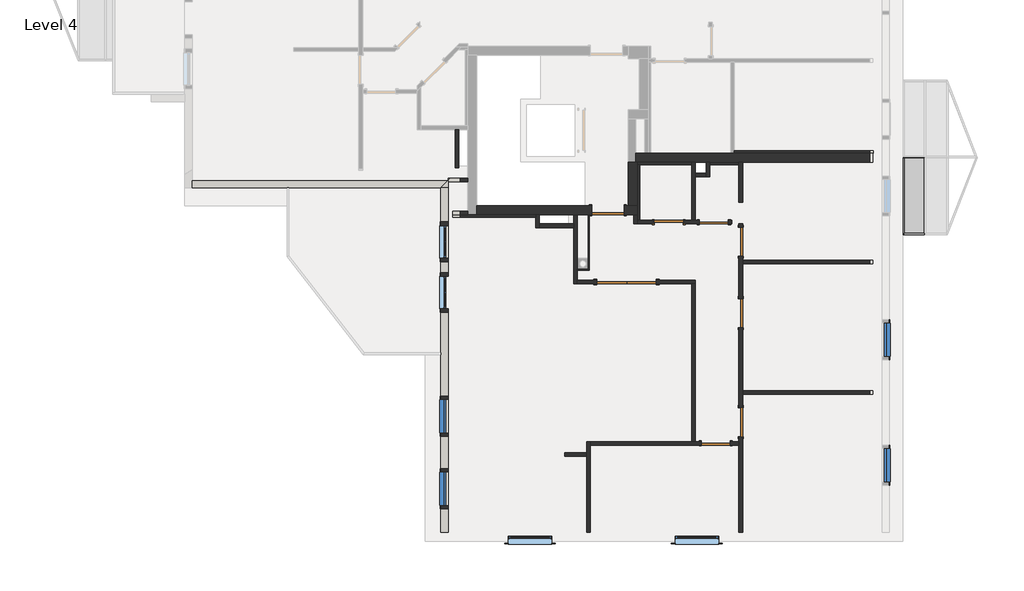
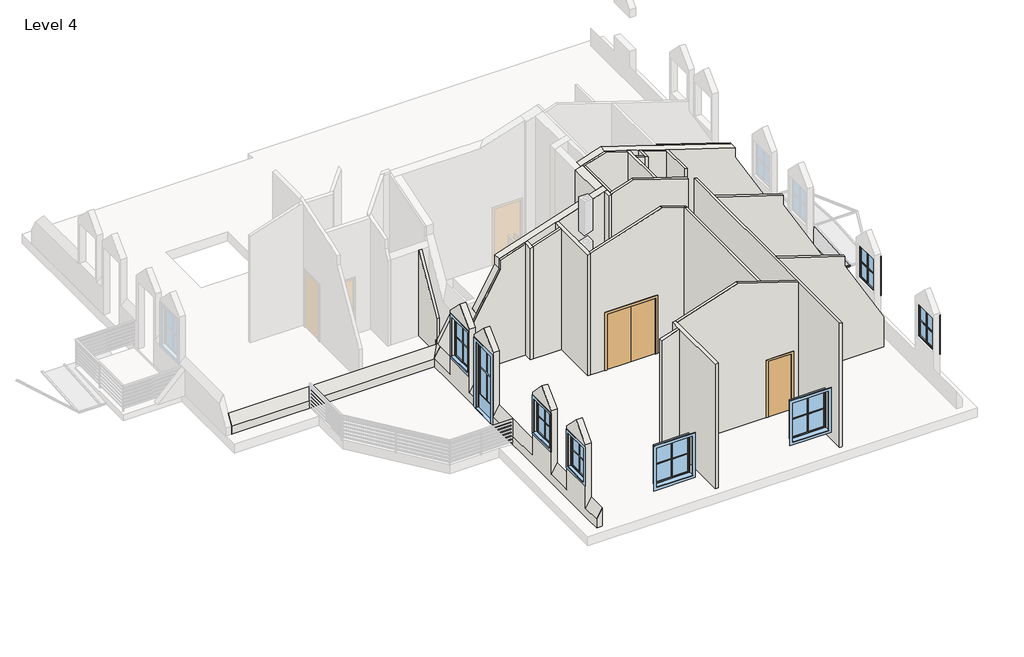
# One storey, part 1 of 4: 32 walls, 8 doors, 8 windows, 2 members, 1 plate.
"""IFC4 building model written with IfcOpenShell, lengths in millimetres."""

from ifc_helpers import new_model, si_unit, frame, origin, place, context, project, spatial, polyline, outline, extrude, faceted_brep, transform, mapped, element, save
from components import m_double_flush_1640_x_2000mm_58610322, standard_door_sd_800x2000_6a16926d, standard_door_sd_800x2000_80f4ff25, standard_door_sd_900x2000_a6683946, rectangular_mullion_40_40_14cc0a15, rectangular_mullion_40_40_b48b72c3, system_panel_system_panel_ddfd2fd1, standard_window_with_mullions_80486b60, standard_window_with_mullions_4ddc0d11, standard_window_with_mullions_4f38f980, window_2_c3f3d78e

model = new_model("IFC4")

# Units and contexts
model_context = context("Model", 3, world=origin())
ifc_project = project(units=[si_unit("LENGTHUNIT", "METRE", prefix="MILLI")], contexts=[model_context])

# Site, building, storey
site = spatial("IfcSite", under=ifc_project)
building = spatial("IfcBuilding", under=site)
storey = spatial("IfcBuildingStorey", under=building, Name="Level 4", Elevation=11800.0)

# Doors
placement = place(None, origin())
m_double_flush_1640_x_2000mm_shape = m_double_flush_1640_x_2000mm_58610322(model_context)
element("IfcDoor", 1, ObjectType="M_Double-Flush : 1640 x 2000mm", at=placement, inside=storey, context=model_context, shape_type="MappedRepresentation", body=[
    mapped(m_double_flush_1640_x_2000mm_shape, transform((1514.937485, -3932.3709459, 11800.0), x_axis=(-1.0, 0.0, 0.0), y_axis=(0.0, -1.0, 0.0), z_axis=(0.0, 0.0, 1.0))),
])
standard_door_sd_800x2000_shape = standard_door_sd_800x2000_6a16926d(model_context)
element("IfcDoor", 2, ObjectType="Standard Door : SD 800x2000", at=placement, inside=storey, context=model_context, shape_type="MappedRepresentation", body=[
    mapped(standard_door_sd_800x2000_shape, transform((2678.2108579, -2282.3709459, 11800.0), x_axis=(-1.0, 0.0, 0.0), y_axis=(0.0, -1.0, 0.0), z_axis=(0.0, 0.0, 1.0))),
])
element("IfcDoor", 3, ObjectType="Standard Door : SD 800x2000", at=placement, inside=storey, context=model_context, shape_type="MappedRepresentation", body=[
    mapped(standard_door_sd_800x2000_shape, transform((4662.8037835, -2823.5069169, 11800.0), x_axis=(0.0, 1.0, 0.0), y_axis=(-1.0, 0.0, 0.0), z_axis=(0.0, 0.0, 1.0))),
])
standard_door_sd_800x2000_2_shape = standard_door_sd_800x2000_80f4ff25(model_context)
element("IfcDoor", 4, ObjectType="Standard Door : SD 800x2000", at=placement, inside=storey, context=model_context, shape_type="MappedRepresentation", body=[
    mapped(standard_door_sd_800x2000_2_shape, transform((3924.394389, -2282.3709459, 11800.0), x_axis=(-1.0, 0.0, 0.0), y_axis=(0.0, -1.0, 0.0), z_axis=(0.0, 0.0, 1.0))),
])
element("IfcDoor", 5, ObjectType="Standard Door : SD 800x2000", at=placement, inside=storey, context=model_context, shape_type="MappedRepresentation", body=[
    mapped(standard_door_sd_800x2000_2_shape, transform((4662.8037835, -4789.4455299, 11800.0), x_axis=(0.0, -1.0, 0.0), y_axis=(1.0, 0.0, 0.0), z_axis=(0.0, 0.0, 1.0))),
])
element("IfcDoor", 6, ObjectType="Standard Door : SD 800x2000", at=placement, inside=storey, context=model_context, shape_type="MappedRepresentation", body=[
    mapped(standard_door_sd_800x2000_2_shape, transform((4662.8037835, -7792.5643737, 11800.0), x_axis=(0.0, -1.0, 0.0), y_axis=(1.0, 0.0, 0.0), z_axis=(0.0, 0.0, 1.0))),
])
element("IfcDoor", 7, ObjectType="Standard Door : SD 800x2000", at=placement, inside=storey, context=model_context, shape_type="MappedRepresentation", body=[
    mapped(standard_door_sd_800x2000_2_shape, transform((3974.9367732, -8382.3709459, 11800.0), x_axis=(-1.0, 0.0, 0.0), y_axis=(0.0, -1.0, 0.0), z_axis=(0.0, 0.0, 1.0))),
])
standard_door_sd_900x2000_shape = standard_door_sd_900x2000_a6683946(model_context)
element("IfcDoor", 8, ObjectType="Standard Door : SD 900x2000", at=placement, inside=storey, context=model_context, shape_type="MappedRepresentation", body=[
    mapped(standard_door_sd_900x2000_shape, transform((1002.8077606, -1957.3709459, 11800.0), x_axis=(0.9999999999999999, 0.0, 0.0), y_axis=(0.0, 0.9999999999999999, 0.0), z_axis=(0.0, 0.0, 1.0))),
])

# Members
rectangular_mullion_40_40_shape = rectangular_mullion_40_40_14cc0a15(model_context)
element("IfcMember", 9, ObjectType="Rectangular Mullion : 40/40", at=placement, inside=storey, context=model_context, shape_type="MappedRepresentation", body=[
    mapped(rectangular_mullion_40_40_shape, transform((9132.8037835, -2632.3709459, 11530.0), x_axis=(-1.0, 0.0, 0.0), y_axis=(0.0, 0.06975647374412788, -0.9975640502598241), z_axis=(0.0, -0.997564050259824, -0.06975647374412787))),
])
rectangular_mullion_40_40_2_shape = rectangular_mullion_40_40_b48b72c3(model_context)
element("IfcMember", 10, ObjectType="Rectangular Mullion : 40/40", at=placement, inside=storey, context=model_context, shape_type="MappedRepresentation", body=[
    mapped(rectangular_mullion_40_40_2_shape, transform((9725.4168815, -2632.3709459, 11530.0), x_axis=(0.0, -0.9975640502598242, -0.06975647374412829), y_axis=(0.0, 0.06975647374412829, -0.9975640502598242), z_axis=(1.0, 0.0, 0.0))),
])

# Plate
system_panel_system_panel_shape = system_panel_system_panel_ddfd2fd1(model_context)
element("IfcPlate", 11, ObjectType="System Panel : System Panel", at=placement, inside=storey, context=model_context, shape_type="MappedRepresentation", body=[
    mapped(system_panel_system_panel_shape, transform((9449.1103325, -2592.4683839, 11532.7902589), x_axis=(1.0, 0.0, 0.0), y_axis=(0.0, 0.06975647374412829, -0.9975640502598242), z_axis=(0.0, 0.9975640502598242, 0.06975647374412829))),
])

# Walls
element("IfcWall", 12, ObjectType="Exterior - 150+50mm", at=placement, inside=storey, context=model_context, shape_type="Brep", body=[
    faceted_brep([(-10456.4352243, -1338.1208451, 11800.0), (-3598.9496412, -1338.1208451, 11800.0), (-3398.9496412, -1338.1208451, 11800.0), (-3398.9496412, -1338.1208451, 12457.027944), (-3598.9496412, -1338.1208451, 12110.6177824), (-3616.7447032, -1338.1208451, 12079.795831), (-7837.1962165, -1338.1208451, 12079.795831), (-10456.4352243, -1338.1208451, 12079.795831), (-10456.4352243, -1138.1208451, 11800.0), (-10456.4352243, -1138.1208451, 12426.2059925), (-3416.7447032, -1138.1208451, 12426.2059925), (-3398.9496412, -1138.1208451, 12457.027944), (-3398.9496412, -1138.1208451, 11800.0)], [[[0, 1, 2, 3, 4, 5, 6, 7]], [[8, 9, 10, 11, 12]], [[2, 1, 0, 8, 12]], [[3, 2, 12, 11]], [[0, 7, 9, 8]], [[7, 6, 5, 10, 9]], [[5, 4, 3, 11, 10]]]),
])
element("IfcWall", 13, ObjectType="Exterior - 150+50mm", at=placement, inside=storey, context=model_context, shape_type="Brep", body=[
    faceted_brep([(-3598.9496412, -10832.3709459, 11800.0), (-3598.9496412, -5882.3709459, 11800.0), (-3598.9496412, -4672.3709459, 11800.0), (-3398.9496412, -4672.3709459, 11800.0), (-3398.9496412, -10832.3709459, 11800.0), (-3598.9496412, -3772.3709459, 11800.0), (-3598.9496412, -1338.1208451, 11800.0), (-3398.9496412, -1338.1208451, 11800.0), (-3398.9496412, -3772.3709459, 11800.0), (-3598.9496412, -4672.3709459, 14200.0), (-3598.9496412, -10832.3709459, 12110.6177824), (-3598.9496412, -10182.3709452, 12110.6177824), (-3598.9496412, -10182.3709452, 12830.6177824), (-3598.9496412, -10182.3709452, 14387.8679656), (-3598.9496412, -9632.3709452, 14937.8679656), (-3598.9496412, -9082.3709452, 14387.8679656), (-3598.9496412, -9082.3709452, 12830.6177824), (-3598.9496412, -9082.3709452, 12110.6177824), (-3598.9496412, -8182.3709452, 12110.6177824), (-3598.9496412, -8182.3709452, 12830.6177824), (-3598.9496412, -8182.3709452, 14387.8679656), (-3598.9496412, -7632.3709452, 14937.8679656), (-3598.9496412, -7082.3709452, 14387.8679656), (-3598.9496412, -7082.3709452, 12830.6177824), (-3598.9496412, -7082.3709452, 12110.6177824), (-3598.9496412, -5932.3709459, 12110.6177824), (-3598.9496412, -4772.3709459, 12110.6177824), (-3598.9496412, -4772.3709459, 12830.6177824), (-3598.9496412, -4772.3709459, 14387.8679656), (-3598.9496412, -4222.3709459, 14937.8679656), (-3598.9496412, -3672.3709459, 14387.8679656), (-3598.9496412, -3672.3709459, 12830.6177824), (-3598.9496412, -3672.3709459, 12110.6177824), (-3598.9496412, -3377.3709459, 12110.6177824), (-3598.9496412, -3377.3709459, 12830.6177824), (-3598.9496412, -3377.3709459, 14387.8679656), (-3598.9496412, -2827.3709459, 14937.8679656), (-3598.9496412, -2277.3709459, 14387.8679656), (-3598.9496412, -2277.3709459, 12830.6177824), (-3598.9496412, -2277.3709459, 12110.6177824), (-3598.9496412, -1338.1208451, 12110.6177824), (-3598.9496412, -3772.3709459, 14200.0), (-3598.9496412, -10082.3709452, 13000.0), (-3598.9496412, -9182.3709452, 13000.0), (-3598.9496412, -9182.3709452, 14200.0), (-3598.9496412, -10082.3709452, 14200.0), (-3598.9496412, -8082.3709452, 13000.0), (-3598.9496412, -7182.3709452, 13000.0), (-3598.9496412, -7182.3709452, 14200.0), (-3598.9496412, -8082.3709452, 14200.0), (-3598.9496412, -3277.3709459, 12800.0), (-3598.9496412, -2377.3709459, 12800.0), (-3598.9496412, -2377.3709459, 14200.0), (-3598.9496412, -3277.3709459, 14200.0), (-3398.9496412, -4672.3709459, 14200.0), (-3398.9496412, -3772.3709459, 14200.0), (-3398.9496412, -1338.1208451, 12457.027944), (-3398.9496412, -2277.3709459, 12457.027944), (-3398.9496412, -2277.3709459, 14387.8679656), (-3398.9496412, -2827.3709459, 14937.8679656), (-3398.9496412, -3377.3709459, 14387.8679656), (-3398.9496412, -3377.3709459, 12457.027944), (-3398.9496412, -3672.3709459, 12457.027944), (-3398.9496412, -3672.3709459, 14387.8679656), (-3398.9496412, -4222.3709459, 14937.8679656), (-3398.9496412, -4772.3709459, 14387.8679656), (-3398.9496412, -4772.3709459, 12457.027944), (-3398.9496412, -7082.3709452, 12457.027944), (-3398.9496412, -7082.3709452, 14387.8679656), (-3398.9496412, -7632.3709452, 14937.8679656), (-3398.9496412, -8182.3709452, 14387.8679656), (-3398.9496412, -8182.3709452, 12457.027944), (-3398.9496412, -9082.3709452, 12457.027944), (-3398.9496412, -9082.3709452, 14387.8679656), (-3398.9496412, -9632.3709452, 14937.8679656), (-3398.9496412, -10182.3709452, 14387.8679656), (-3398.9496412, -10182.3709452, 12457.027944), (-3398.9496412, -10832.3709459, 12457.027944), (-3398.9496412, -10082.3709452, 13000.0), (-3398.9496412, -10082.3709452, 14200.0), (-3398.9496412, -9182.3709452, 14200.0), (-3398.9496412, -9182.3709452, 13000.0), (-3398.9496412, -8082.3709452, 13000.0), (-3398.9496412, -8082.3709452, 14200.0), (-3398.9496412, -7182.3709452, 14200.0), (-3398.9496412, -7182.3709452, 13000.0), (-3398.9496412, -3277.3709459, 12800.0), (-3398.9496412, -3277.3709459, 14200.0), (-3398.9496412, -2377.3709459, 14200.0), (-3398.9496412, -2377.3709459, 12800.0)], [[[0, 1, 2, 3, 4]], [[5, 6, 7, 8]], [[9, 2, 1, 0, 10, 11, 12, 13, 14, 15, 16, 17, 18, 19, 20, 21, 22, 23, 24, 25, 26, 27, 28, 29, 30, 31, 32, 33, 34, 35, 36, 37, 38, 39, 40, 6, 5, 41], [42, 43, 44, 45], [46, 47, 48, 49], [50, 51, 52, 53]], [[4, 3, 54, 55, 8, 7, 56, 57, 58, 59, 60, 61, 62, 63, 64, 65, 66, 67, 68, 69, 70, 71, 72, 73, 74, 75, 76, 77], [78, 79, 80, 81], [82, 83, 84, 85], [86, 87, 88, 89]], [[6, 40, 56, 7]], [[10, 0, 4, 77]], [[65, 28, 27, 26, 66]], [[30, 63, 62, 32, 31]], [[60, 35, 34, 33, 61]], [[37, 58, 57, 39, 38]], [[11, 76, 75, 13, 12]], [[72, 17, 16, 15, 73]], [[18, 71, 70, 20, 19]], [[67, 24, 23, 22, 68]], [[40, 39, 57, 56]], [[33, 32, 62, 61]], [[26, 25, 24, 67, 66]], [[18, 17, 72, 71]], [[11, 10, 77, 76]], [[37, 36, 59, 58]], [[36, 35, 60, 59]], [[22, 21, 69, 68]], [[21, 20, 70, 69]], [[15, 14, 74, 73]], [[14, 13, 75, 74]], [[30, 29, 64, 63]], [[29, 28, 65, 64]], [[54, 3, 2, 9]], [[55, 54, 9, 41]], [[8, 55, 41, 5]], [[79, 78, 42, 45]], [[80, 79, 45, 44]], [[81, 80, 44, 43]], [[78, 81, 43, 42]], [[83, 82, 46, 49]], [[84, 83, 49, 48]], [[85, 84, 48, 47]], [[82, 85, 47, 46]], [[87, 86, 50, 53]], [[88, 87, 53, 52]], [[89, 88, 52, 51]], [[86, 89, 51, 50]]]),
])
element("IfcWall", 14, ObjectType="Interior - 100mm", at=placement, inside=storey, context=model_context, shape_type="SweptSolid", body=[
    extrude(outline(polyline([(267.6290541, 11800.0), (-782.3709459, 11800.0), (-782.3709459, 13042.3828926), (267.6290541, 14861.0362405), (267.6290541, 11800.0)])), frame((-3207.1962165, 0.0, 0.0), z_axis=(1.0, 0.0, 0.0), x_axis=(0.0, 1.0, 0.0)), (0.0, 0.0, 1.0), 100.0),
])
element("IfcWall", 15, ObjectType="Interior - 100mm", at=placement, inside=storey, context=model_context, shape_type="Brep", body=[
    faceted_brep([(-986.4381272, -2082.3709459, 11800.0), (-986.4381272, -2147.3709459, 11800.0), (-986.4381272, -2432.3709459, 11800.0), (-986.4381272, -2432.3709459, 15773.7907394), (-986.4381272, -2147.3709459, 15773.7907394), (-986.4381272, -2082.3709459, 15773.7907394), (-886.4381272, -2082.3709459, 11800.0), (-886.4381272, -2082.3709459, 15806.282709), (-886.4381272, -2332.3709459, 15806.282709), (-886.4381272, -2432.3709459, 15806.282709), (-886.4381272, -2432.3709459, 11800.0), (-886.4381272, -2332.3709459, 11800.0)], [[[0, 1, 2, 3, 4, 5]], [[6, 7, 8, 9, 10, 11]], [[2, 1, 0, 6, 11, 10]], [[3, 2, 10, 9]], [[0, 5, 7, 6]], [[5, 4, 3, 9, 8, 7]]]),
])
element("IfcWall", 16, ObjectType="Interior - 100mm", at=placement, inside=storey, context=model_context, shape_type="SweptSolid", body=[
    extrude(outline(polyline([(11800.0, -886.4381272), (11800.0, 63.5618728), (16114.9564204, 63.5618728), (15806.282709, -886.4381272), (11800.0, -886.4381272)])), frame((0.0, -2432.3709459, 0.0), z_axis=(0.0, 1.0, 0.0), x_axis=(0.0, 0.0, 1.0)), (0.0, 0.0, 1.0), 100.0),
])
element("IfcWall", 17, ObjectType="Interior - 100mm", at=placement, inside=storey, context=model_context, shape_type="Brep", body=[
    faceted_brep([(63.5618728, -2082.3709459, 11800.0), (63.5618728, -2332.3709459, 11800.0), (63.5618728, -2432.3709459, 11800.0), (63.5618728, -3982.3709459, 11800.0), (63.5618728, -3982.3709459, 16114.9564204), (63.5618728, -2432.3709459, 16114.9564204), (63.5618728, -2332.3709459, 16114.9564204), (63.5618728, -2082.3709459, 16114.9564204), (163.5618728, -2082.3709459, 11800.0), (163.5618728, -2082.3709459, 16147.44839), (163.5618728, -3882.3709459, 16147.44839), (163.5618728, -3982.3709459, 16147.44839), (163.5618728, -3982.3709459, 11800.0), (163.5618728, -3882.3709459, 11800.0), (163.5618728, -3612.3709459, 11800.0), (163.5618728, -3582.3709459, 11800.0)], [[[0, 1, 2, 3, 4, 5, 6, 7]], [[8, 9, 10, 11, 12, 13, 14, 15]], [[3, 2, 1, 0, 8, 15, 14, 13, 12]], [[4, 3, 12, 11]], [[0, 7, 9, 8]], [[7, 6, 5, 4, 11, 10, 9]]]),
])
element("IfcWall", 18, ObjectType="Interior - 100mm", at=placement, inside=storey, context=model_context, shape_type="Brep", body=[
    faceted_brep([(163.5618728, -3882.3709459, 11800.0), (694.937485, -3882.3709459, 11800.0), (694.937485, -3982.3709459, 11800.0), (163.5618728, -3982.3709459, 11800.0), (2334.937485, -3882.3709459, 11800.0), (3412.8037835, -3882.3709459, 11800.0), (3412.8037835, -3982.3709459, 11800.0), (3312.8037835, -3982.3709459, 11800.0), (2334.937485, -3982.3709459, 11800.0), (694.937485, -3982.3709459, 13800.0), (2334.937485, -3982.3709459, 13800.0), (3412.8037835, -3982.3709459, 16656.802239), (3312.8037835, -3982.3709459, 16689.2942086), (2571.9978058, -3982.3709459, 16929.9966618), (163.5618728, -3982.3709459, 16147.44839), (694.937485, -3882.3709459, 13800.0), (163.5618728, -3882.3709459, 16147.44839), (2571.9978058, -3882.3709459, 16929.9966618), (3412.8037835, -3882.3709459, 16656.802239), (2334.937485, -3882.3709459, 13800.0)], [[[0, 1, 2, 3]], [[4, 5, 6, 7, 8]], [[3, 2, 9, 10, 8, 7, 6, 11, 12, 13, 14]], [[15, 1, 0, 16, 17, 18, 5, 4, 19]], [[3, 14, 16, 0]], [[11, 6, 5, 18]], [[14, 13, 17, 16]], [[13, 12, 11, 18, 17]], [[9, 2, 1, 15]], [[10, 9, 15, 19]], [[8, 10, 19, 4]]]),
])
element("IfcWall", 19, ObjectType="Interior - 100mm", at=placement, inside=storey, context=model_context, shape_type="SweptSolid", body=[
    extrude(outline(polyline([(16689.2942086, 3312.8037835), (11800.0, 3312.8037835), (11800.0, 3412.8037835), (16656.802239, 3412.8037835), (16689.2942086, 3312.8037835)])), frame((0.0, -8332.3709459, 0.0), z_axis=(0.0, 1.0, 0.0), x_axis=(0.0, 0.0, 1.0)), (0.0, 0.0, 1.0), 4350.0),
])
element("IfcWall", 20, ObjectType="Interior - 100mm", at=placement, inside=storey, context=model_context, shape_type="Brep", body=[
    faceted_brep([(512.8037835, -10832.3709459, 11800.0), (512.8037835, -8432.3709459, 11800.0), (512.8037835, -8332.3709459, 11800.0), (512.8037835, -8332.3709459, 16260.9239656), (512.8037835, -8432.3709459, 16260.9239656), (512.8037835, -10832.3709459, 16260.9239656), (412.8037835, -10832.3709459, 11800.0), (412.8037835, -10832.3709459, 16228.431996), (412.8037835, -8732.3709459, 16228.431996), (412.8037835, -8632.3709459, 16228.431996), (412.8037835, -8332.3709459, 16228.431996), (412.8037835, -8332.3709459, 11800.0), (412.8037835, -8632.3709459, 11800.0), (412.8037835, -8732.3709459, 11800.0)], [[[0, 1, 2, 3, 4, 5]], [[6, 7, 8, 9, 10, 11, 12, 13]], [[2, 1, 0, 6, 13, 12, 11]], [[3, 2, 11, 10]], [[0, 5, 7, 6]], [[5, 4, 3, 10, 9, 8, 7]]]),
])
element("IfcWall", 21, ObjectType="Interior - 100mm", at=placement, inside=storey, context=model_context, shape_type="Brep", body=[
    faceted_brep([(512.8037835, -8332.3709459, 11800.0), (3312.8037835, -8332.3709459, 11800.0), (3412.8037835, -8332.3709459, 11800.0), (3574.9367732, -8332.3709459, 11800.0), (3574.9367732, -8432.3709459, 11800.0), (512.8037835, -8432.3709459, 11800.0), (4374.9367732, -8332.3709459, 11800.0), (4612.8037835, -8332.3709459, 11800.0), (4612.8037835, -8432.3709459, 11800.0), (4374.9367732, -8432.3709459, 11800.0), (3574.9367732, -8432.3709459, 13800.0), (4374.9367732, -8432.3709459, 13800.0), (4612.8037835, -8432.3709459, 16266.8986035), (2571.9978058, -8432.3709459, 16929.9966618), (512.8037835, -8432.3709459, 16260.9239656), (3574.9367732, -8332.3709459, 13800.0), (512.8037835, -8332.3709459, 16260.9239656), (2571.9978058, -8332.3709459, 16929.9966618), (3312.8037835, -8332.3709459, 16689.2942086), (3412.8037835, -8332.3709459, 16656.802239), (4612.8037835, -8332.3709459, 16266.8986035), (4374.9367732, -8332.3709459, 13800.0)], [[[0, 1, 2, 3, 4, 5]], [[6, 7, 8, 9]], [[5, 4, 10, 11, 9, 8, 12, 13, 14]], [[15, 3, 2, 1, 0, 16, 17, 18, 19, 20, 7, 6, 21]], [[5, 14, 16, 0]], [[12, 8, 7, 20]], [[14, 13, 17, 16]], [[13, 12, 20, 19, 18, 17]], [[10, 4, 3, 15]], [[11, 10, 15, 21]], [[9, 11, 21, 6]]]),
])
element("IfcWall", 22, ObjectType="Interior - 100mm", at=placement, inside=storey, context=model_context, shape_type="SweptSolid", body=[
    extrude(outline(polyline([(11800.0, -187.1962165), (11800.0, 412.8037835), (16228.431996, 412.8037835), (16033.4801782, -187.1962165), (11800.0, -187.1962165)])), frame((0.0, -8732.3709459, 0.0), z_axis=(0.0, 1.0, 0.0), x_axis=(0.0, 0.0, 1.0)), (0.0, 0.0, 1.0), 100.0),
])
element("IfcWall", 23, ObjectType="Interior - 100mm", at=placement, inside=storey, context=model_context, shape_type="Brep", body=[
    faceted_brep([(4712.8037835, -2332.3709459, 16234.4066339), (4712.8037835, -2332.3709459, 11800.0), (4612.8037835, -2332.3709459, 11800.0), (4612.8037835, -2332.3709459, 16266.8986035), (4612.8037835, -10832.3709459, 11800.0), (4612.8037835, -8432.3709459, 11800.0), (4612.8037835, -8332.3709459, 11800.0), (4612.8037835, -8192.5643737, 11800.0), (4712.8037835, -8192.5643737, 11800.0), (4712.8037835, -10832.3709459, 11800.0), (4712.8037835, -2423.5069169, 11800.0), (4612.8037835, -2423.5069169, 11800.0), (4712.8037835, -3223.5069169, 11800.0), (4712.8037835, -3332.3709459, 11800.0), (4712.8037835, -3432.3709459, 11800.0), (4712.8037835, -4389.4455299, 11800.0), (4612.8037835, -4389.4455299, 11800.0), (4612.8037835, -3223.5069169, 11800.0), (4612.8037835, -7392.5643737, 11800.0), (4612.8037835, -5189.4455299, 11800.0), (4712.8037835, -5189.4455299, 11800.0), (4712.8037835, -6932.3709459, 11800.0), (4712.8037835, -7032.3709459, 11800.0), (4712.8037835, -7392.5643737, 11800.0), (4712.8037835, -8192.5643737, 13800.0), (4712.8037835, -7392.5643737, 13800.0), (4712.8037835, -5189.4455299, 13800.0), (4712.8037835, -4389.4455299, 13800.0), (4712.8037835, -3223.5069169, 13800.0), (4712.8037835, -2423.5069169, 13800.0), (4712.8037835, -3332.3709459, 16234.4066339), (4712.8037835, -3432.3709459, 16234.4066339), (4712.8037835, -6932.3709459, 16234.4066339), (4712.8037835, -7032.3709459, 16234.4066339), (4712.8037835, -10832.3709459, 16234.4066339), (4612.8037835, -8192.5643737, 13800.0), (4612.8037835, -10832.3709459, 16266.8986035), (4612.8037835, -8432.3709459, 16266.8986035), (4612.8037835, -8332.3709459, 16266.8986035), (4612.8037835, -2423.5069169, 13800.0), (4612.8037835, -3223.5069169, 13800.0), (4612.8037835, -4389.4455299, 13800.0), (4612.8037835, -5189.4455299, 13800.0), (4612.8037835, -7392.5643737, 13800.0)], [[[0, 1, 2, 3]], [[4, 5, 6, 7, 8, 9]], [[1, 10, 11, 2]], [[12, 13, 14, 15, 16, 17]], [[18, 19, 20, 21, 22, 23]], [[9, 8, 24, 25, 23, 22, 21, 20, 26, 27, 15, 14, 13, 12, 28, 29, 10, 1, 0, 30, 31, 32, 33, 34]], [[35, 7, 6, 5, 4, 36, 37, 38, 3, 2, 11, 39, 40, 17, 16, 41, 42, 19, 18, 43]], [[9, 34, 36, 4]], [[34, 33, 32, 31, 30, 0, 3, 38, 37, 36]], [[26, 20, 19, 42]], [[27, 26, 42, 41]], [[15, 27, 41, 16]], [[39, 11, 10, 29]], [[40, 39, 29, 28]], [[17, 40, 28, 12]], [[24, 8, 7, 35]], [[25, 24, 35, 43]], [[23, 25, 43, 18]]]),
])
element("IfcWall", 24, ObjectType="Interior - 100mm", at=placement, inside=storey, context=model_context, shape_type="Brep", body=[
    faceted_brep([(4412.8037835, -2232.3709459, 11800.0), (4412.8037835, -2232.3709459, 16331.8825427), (4412.8037835, -2332.3709459, 16331.8825427), (4412.8037835, -2332.3709459, 11800.0), (1812.8081358, -2232.3709459, 11800.0), (1877.8037835, -2232.3709459, 11800.0), (2278.2108579, -2232.3709459, 11800.0), (2278.2108579, -2332.3709459, 11800.0), (1812.8081358, -2332.3709459, 11800.0), (4324.394389, -2232.3709459, 11800.0), (4324.394389, -2332.3709459, 11800.0), (3078.2108579, -2232.3709459, 11800.0), (3312.8037835, -2232.3709459, 11800.0), (3412.8037835, -2232.3709459, 11800.0), (3524.394389, -2232.3709459, 11800.0), (3524.394389, -2332.3709459, 11800.0), (3078.2108579, -2332.3709459, 11800.0), (2278.2108579, -2232.3709459, 13800.0), (1812.8081358, -2232.3709459, 16683.3209848), (1877.8037835, -2232.3709459, 16704.4393509), (2571.9978058, -2232.3709459, 16929.9966618), (3312.8037835, -2232.3709459, 16689.2942086), (3412.8037835, -2232.3709459, 16656.802239), (4324.394389, -2232.3709459, 13800.0), (3524.394389, -2232.3709459, 13800.0), (3078.2108579, -2232.3709459, 13800.0), (2278.2108579, -2332.3709459, 13800.0), (3078.2108579, -2332.3709459, 13800.0), (3524.394389, -2332.3709459, 13800.0), (4324.394389, -2332.3709459, 13800.0), (2571.9978058, -2332.3709459, 16929.9966618), (1812.8081358, -2332.3709459, 16683.3209848)], [[[0, 1, 2, 3]], [[4, 5, 6, 7, 8]], [[9, 0, 3, 10]], [[11, 12, 13, 14, 15, 16]], [[17, 6, 5, 4, 18, 19, 20, 21, 22, 1, 0, 9, 23, 24, 14, 13, 12, 11, 25]], [[8, 7, 26, 27, 16, 15, 28, 29, 10, 3, 2, 30, 31]], [[18, 4, 8, 31]], [[1, 22, 21, 20, 30, 2]], [[20, 19, 18, 31, 30]], [[28, 15, 14, 24]], [[29, 28, 24, 23]], [[10, 29, 23, 9]], [[26, 7, 6, 17]], [[27, 26, 17, 25]], [[16, 27, 25, 11]]]),
])
element("IfcWall", 25, ObjectType="Interior - 100mm", at=placement, inside=storey, context=model_context, shape_type="Brep", body=[
    faceted_brep([(1712.8081358, -2082.3709459, 11800.0), (1712.8081358, -2332.3709459, 11800.0), (1712.8081358, -2332.3709459, 16650.8290152), (1712.8081358, -2082.3709459, 16650.8290152), (1812.8081358, -2082.3709459, 11800.0), (1812.8081358, -2082.3709459, 16683.3209848), (1812.8081358, -2232.3709459, 16683.3209848), (1812.8081358, -2332.3709459, 16683.3209848), (1812.8081358, -2332.3709459, 11800.0), (1812.8081358, -2232.3709459, 11800.0)], [[[0, 1, 2, 3]], [[4, 5, 6, 7, 8, 9]], [[1, 0, 4, 9, 8]], [[2, 1, 8, 7]], [[0, 3, 5, 4]], [[3, 2, 7, 6, 5]]]),
])
element("IfcWall", 26, ObjectType="Interior - 100mm", at=placement, inside=storey, context=model_context, shape_type="SweptSolid", body=[
    extrude(outline(polyline([(11800.0, 8302.8037835), (12878.7941791, 8302.8037835), (15160.2921908, 6985.5802922), (15495.936781, 6985.5802922), (16234.4066339, 4712.8037835), (11800.0, 4712.8037835), (11800.0, 8302.8037835)])), frame((0.0, -3432.3709459, 0.0), z_axis=(0.0, 1.0, 0.0), x_axis=(0.0, 0.0, 1.0)), (0.0, 0.0, 1.0), 100.0),
])
element("IfcWall", 27, ObjectType="Interior - 100mm", at=placement, inside=storey, context=model_context, shape_type="Brep", body=[
    faceted_brep([(4612.8037835, -632.3709459, 11800.0), (4612.8037835, -697.3709459, 11800.0), (4612.8037835, -1732.3709459, 11800.0), (4612.8037835, -1732.3709459, 16266.8986035), (4612.8037835, -697.3709459, 16266.8986035), (4612.8037835, -632.3709459, 16266.8986035), (4712.8037835, -632.3709459, 11800.0), (4712.8037835, -632.3709459, 16234.4066339), (4712.8037835, -1732.3709459, 16234.4066339), (4712.8037835, -1732.3709459, 11800.0)], [[[0, 1, 2, 3, 4, 5]], [[6, 7, 8, 9]], [[2, 1, 0, 6, 9]], [[3, 2, 9, 8]], [[0, 5, 7, 6]], [[5, 4, 3, 8, 7]]]),
])
element("IfcWall", 28, ObjectType="Interior - 100mm", at=placement, inside=storey, context=model_context, shape_type="Brep", body=[
    faceted_brep([(3712.8037835, -632.3709459, 11800.0), (3712.8037835, -932.3709459, 11800.0), (3712.8037835, -1032.3709459, 11800.0), (3712.8037835, -1032.3709459, 16559.3263301), (3712.8037835, -932.3709459, 16559.3263301), (3712.8037835, -632.3709459, 16559.3263301), (3812.8037835, -632.3709459, 11800.0), (3812.8037835, -632.3709459, 16526.8343605), (3812.8037835, -697.3709459, 16526.8343605), (3812.8037835, -1032.3709459, 16526.8343605), (3812.8037835, -1032.3709459, 11800.0), (3812.8037835, -697.3709459, 11800.0)], [[[0, 1, 2, 3, 4, 5]], [[6, 7, 8, 9, 10, 11]], [[2, 1, 0, 6, 11, 10]], [[3, 2, 10, 9]], [[0, 5, 7, 6]], [[5, 4, 3, 9, 8, 7]]]),
])
element("IfcWall", 29, ObjectType="Interior - 100mm", at=placement, inside=storey, context=model_context, shape_type="SweptSolid", body=[
    extrude(outline(polyline([(11800.0, 3712.8037835), (16559.3263301, 3712.8037835), (16656.802239, 3412.8037835), (11800.0, 3412.8037835), (11800.0, 3712.8037835)])), frame((0.0, -1032.3709459, 0.0), z_axis=(0.0, 1.0, 0.0), x_axis=(0.0, 0.0, 1.0)), (0.0, 0.0, 1.0), 100.0),
])
element("IfcWall", 30, ObjectType="Interior - 100mm", at=placement, inside=storey, context=model_context, shape_type="Brep", body=[
    faceted_brep([(3312.8037835, -632.3709459, 11800.0), (3312.8037835, -697.3709459, 11800.0), (3312.8037835, -2232.3709459, 11800.0), (3312.8037835, -2232.3709459, 16689.2942086), (3312.8037835, -697.3709459, 16689.2942086), (3312.8037835, -632.3709459, 16689.2942086), (3412.8037835, -632.3709459, 11800.0), (3412.8037835, -632.3709459, 16656.802239), (3412.8037835, -932.3709459, 16656.802239), (3412.8037835, -1032.3709459, 16656.802239), (3412.8037835, -2232.3709459, 16656.802239), (3412.8037835, -2232.3709459, 11800.0), (3412.8037835, -1032.3709459, 11800.0), (3412.8037835, -932.3709459, 11800.0)], [[[0, 1, 2, 3, 4, 5]], [[6, 7, 8, 9, 10, 11, 12, 13]], [[2, 1, 0, 6, 13, 12, 11]], [[3, 2, 11, 10]], [[0, 5, 7, 6]], [[5, 4, 3, 10, 9, 8, 7]]]),
])
element("IfcWall", 31, ObjectType="Interior - 100mm", at=placement, inside=storey, context=model_context, shape_type="Brep", body=[
    faceted_brep([(-2857.1962165, -1072.3709459, 11800.0), (-3398.9496412, -1072.3709459, 11800.0), (-3398.9496412, -1072.3709459, 12540.0881584), (-3350.9948041, -1072.3709459, 12540.0881584), (-2857.1962165, -1072.3709459, 13395.3724007), (-2857.1962165, -1172.3709459, 11800.0), (-2857.1962165, -1172.3709459, 13395.3724007), (-3398.9496412, -1172.3709459, 12457.027944), (-3398.9496412, -1172.3709459, 11800.0), (-3398.9496412, -1120.3257831, 12457.027944)], [[[0, 1, 2, 3, 4]], [[5, 6, 7, 8]], [[1, 0, 5, 8]], [[2, 1, 8, 7, 9]], [[0, 4, 6, 5]], [[4, 3, 9, 7, 6]], [[3, 2, 9]]]),
])
element("IfcWall", 32, ObjectType="Interior - 100mm", at=placement, inside=storey, context=model_context, shape_type="SweptSolid", body=[
    extrude(outline(polyline([(11800.0, -2857.1962165), (13395.3724007, -2857.1962165), (12667.9110615, -3277.1962165), (11800.0, -3277.1962165), (11800.0, -2857.1962165)])), frame((0.0, -2082.3709459, 0.0), z_axis=(0.0, 1.0, 0.0), x_axis=(0.0, 0.0, 1.0)), (0.0, 0.0, 1.0), 100.0),
])
element("IfcWall", 33, ObjectType="Interior - 100mm", at=placement, inside=storey, context=model_context, shape_type="SweptSolid", body=[
    extrude(outline(polyline([(11800.0, 4712.8037835), (11800.0, 8302.8037835), (12878.7941791, 8302.8037835), (15160.2921908, 6985.5802922), (15495.936781, 6985.5802922), (16234.4066339, 4712.8037835), (11800.0, 4712.8037835)])), frame((0.0, -7032.3709459, 0.0), z_axis=(0.0, 1.0, 0.0), x_axis=(0.0, 0.0, 1.0)), (0.0, 0.0, 1.0), 100.0),
])
element("IfcWall", 34, ObjectType="Interior - 250mm", at=placement, inside=storey, context=model_context, shape_type="Brep", body=[
    faceted_brep([(1812.8081358, -2082.3709459, 11800.0), (1712.8081358, -2082.3709459, 11800.0), (1452.8077606, -2082.3709459, 11800.0), (1452.8077606, -1832.3709459, 11800.0), (1562.8077606, -1832.3709459, 11800.0), (1812.8077606, -1832.3709459, 11800.0), (552.8077606, -2082.3709459, 11800.0), (493.5618728, -2082.3709459, 11800.0), (463.5618728, -2082.3709459, 11800.0), (163.5618728, -2082.3709459, 11800.0), (63.5618728, -2082.3709459, 11800.0), (-886.4381272, -2082.3709459, 11800.0), (-986.4381272, -2082.3709459, 11800.0), (-2607.1962165, -2082.3709459, 11800.0), (-2607.1962165, -1832.3709459, 11800.0), (552.8077606, -1832.3709459, 11800.0), (1452.8077606, -2082.3709459, 13800.0), (1812.8081358, -2082.3709459, 16683.3209848), (1712.8081358, -2082.3709459, 16650.8290152), (163.5618728, -2082.3709459, 16147.44839), (63.5618728, -2082.3709459, 16114.9564204), (-886.4381272, -2082.3709459, 15806.282709), (-986.4381272, -2082.3709459, 15773.7907394), (-1841.5846805, -2082.3709459, 15495.936781), (-1841.5846805, -2082.3709459, 15154.4631818), (-2607.1962165, -2082.3709459, 13828.3851026), (552.8077606, -2082.3709459, 13800.0), (1452.8077606, -1832.3709459, 13800.0), (552.8077606, -1832.3709459, 13800.0), (-2607.1962165, -1832.3709459, 13828.3851026), (-1841.5846805, -1832.3709459, 15154.4631818), (-1841.5846805, -1832.3709459, 15495.936781), (1562.8077606, -1832.3709459, 16602.0909389), (1812.8077606, -1832.3709459, 16683.3208629)], [[[0, 1, 2, 3, 4, 5]], [[6, 7, 8, 9, 10, 11, 12, 13, 14, 15]], [[16, 2, 1, 0, 17, 18, 19, 20, 21, 22, 23, 24, 25, 13, 12, 11, 10, 9, 8, 7, 6, 26]], [[5, 4, 3, 27, 28, 15, 14, 29, 30, 31, 32, 33]], [[13, 25, 29, 14]], [[17, 0, 5, 33]], [[30, 24, 23, 31]], [[25, 24, 30, 29]], [[23, 22, 21, 20, 19, 18, 17, 33, 32, 31]], [[27, 3, 2, 16]], [[28, 27, 16, 26]], [[15, 28, 26, 6]]]),
])
element("IfcWall", 35, ObjectType="Interior - 250mm", at=placement, inside=storey, context=model_context, shape_type="Brep", body=[
    faceted_brep([(1812.8077606, -1832.3709459, 11800.0), (1812.8059596, -632.3709459, 11800.0), (1812.8059596, -632.3709459, 16683.3202778), (1812.8077606, -1832.3709459, 16683.3208629), (1562.8077606, -1832.3709459, 11800.0), (1562.8077606, -1832.3709459, 16602.0909389), (1562.8059596, -632.3709459, 16602.0903537), (1562.8059596, -632.3709459, 11800.0), (1762.8059596, -632.3709459, 11800.0), (1762.8059596, -632.3709459, 16667.0742929)], [[[0, 1, 2, 3]], [[4, 5, 6, 7]], [[1, 0, 4, 7, 8]], [[0, 3, 5, 4]], [[2, 1, 8, 7, 6, 9]], [[3, 2, 9, 6, 5]]]),
])
element("IfcWall", 36, ObjectType="Interior - 250mm", at=placement, inside=storey, context=model_context, shape_type="Brep", body=[
    faceted_brep([(8302.8037835, -382.3709459, 11800.0), (4482.8037835, -382.3709459, 11800.0), (4382.8037835, -382.3709459, 11800.0), (2177.8037835, -382.3709459, 11800.0), (2112.8037835, -382.3709459, 11800.0), (2012.8037835, -382.3709459, 11800.0), (1762.8055844, -382.3709459, 11800.0), (1762.8055844, -382.3709459, 16667.074171), (2012.8037835, -382.3709459, 16748.3035099), (2112.8037835, -382.3709459, 16780.7954795), (2177.8037835, -382.3709459, 16801.9152598), (2571.9978058, -382.3709459, 16929.9966618), (4382.8037835, -382.3709459, 16341.6301336), (4482.8037835, -382.3709459, 16309.138164), (6985.5802922, -382.3709459, 15495.936781), (6985.5802922, -382.3709459, 15160.2921908), (8302.8037835, -382.3709459, 12878.7941791), (8302.8037835, -632.3709459, 11800.0), (8302.8037835, -632.3709459, 12878.7941791), (6985.5802922, -632.3709459, 15160.2921908), (6985.5802922, -632.3709459, 15495.936781), (4712.8037835, -632.3709459, 16234.4066339), (4612.8037835, -632.3709459, 16266.8986035), (3812.8037835, -632.3709459, 16526.8343605), (3712.8037835, -632.3709459, 16559.3263301), (3412.8037835, -632.3709459, 16656.802239), (3312.8037835, -632.3709459, 16689.2942086), (2571.9978058, -632.3709459, 16929.9966618), (1812.8059596, -632.3709459, 16683.3202778), (1762.8059596, -632.3709459, 16667.0742929), (1762.8059596, -632.3709459, 11800.0), (1812.8059596, -632.3709459, 11800.0), (3312.8037835, -632.3709459, 11800.0), (3412.8037835, -632.3709459, 11800.0), (3712.8037835, -632.3709459, 11800.0), (3812.8037835, -632.3709459, 11800.0), (4612.8037835, -632.3709459, 11800.0), (4712.8037835, -632.3709459, 11800.0)], [[[0, 1, 2, 3, 4, 5, 6, 7, 8, 9, 10, 11, 12, 13, 14, 15, 16]], [[17, 18, 19, 20, 21, 22, 23, 24, 25, 26, 27, 28, 29, 30, 31, 32, 33, 34, 35, 36, 37]], [[6, 5, 4, 3, 2, 1, 0, 17, 37, 36, 35, 34, 33, 32, 31, 30]], [[0, 16, 18, 17]], [[7, 6, 30, 29]], [[19, 15, 14, 20]], [[16, 15, 19, 18]], [[14, 13, 12, 11, 27, 26, 25, 24, 23, 22, 21, 20]], [[11, 10, 9, 8, 7, 29, 28, 27]]]),
])
element("IfcWall", 37, ObjectType="Interior - 300mm", at=placement, inside=storey, context=model_context, shape_type="Brep", body=[
    faceted_brep([(463.5618728, -2082.3709459, 11800.0), (463.5618728, -3582.3709459, 11800.0), (463.5618728, -3612.3709459, 11800.0), (463.5618728, -3612.3709459, 14750.0), (463.5618728, -3582.3709459, 14750.0), (463.5618728, -2082.3709459, 14750.0), (493.5618728, -2082.3709459, 11800.0), (493.5618728, -2082.3709459, 14750.0), (493.5618728, -3612.3709459, 14750.0), (493.5618728, -3612.3709459, 11800.0)], [[[0, 1, 2, 3, 4, 5]], [[6, 7, 8, 9]], [[2, 1, 0, 6, 9]], [[5, 4, 3, 8, 7]], [[3, 2, 9, 8]], [[0, 5, 7, 6]]]),
])
element("IfcWall", 38, ObjectType="Interior - 300mm", at=placement, inside=storey, context=model_context, shape_type="SweptSolid", body=[
    extrude(outline(polyline([(163.5618728, -3582.3709459), (463.5618728, -3582.3709459), (463.5618728, -3612.3709459), (163.5618728, -3612.3709459), (163.5618728, -3582.3709459)])), frame((0.0, 0.0, 11800.0), z_axis=(0.0, 0.0, 1.0), x_axis=(1.0, 0.0, 0.0)), (0.0, 0.0, 1.0), 2950.0),
])
element("IfcWall", 39, ObjectType="Interior - 65mm", at=placement, inside=storey, context=model_context, shape_type="Brep", body=[
    faceted_brep([(3312.8037835, -632.3709459, 11800.0), (1812.8037835, -632.3709459, 11800.0), (1812.8037835, -632.3709459, 16683.3195707), (2571.9978058, -632.3709459, 16929.9966618), (3312.8037835, -632.3709459, 16689.2942086), (3312.8037835, -697.3709459, 11800.0), (3312.8037835, -697.3709459, 16689.2942086), (2571.9978058, -697.3709459, 16929.9966618), (1877.8037835, -697.3709459, 16704.4393509), (1812.8037835, -697.3709459, 16683.3195707), (1812.8037835, -697.3709459, 11800.0), (1877.8037835, -697.3709459, 11800.0)], [[[0, 1, 2, 3, 4]], [[5, 6, 7, 8, 9, 10, 11]], [[1, 0, 5, 11, 10]], [[2, 1, 10, 9]], [[0, 4, 6, 5]], [[4, 3, 7, 6]], [[3, 2, 9, 8, 7]]]),
])
element("IfcWall", 40, ObjectType="Interior - 65mm", at=placement, inside=storey, context=model_context, shape_type="SweptSolid", body=[
    extrude(outline(polyline([(16683.3195707, 1812.8037835), (11800.0, 1812.8037835), (11800.0, 1877.8037835), (16704.4393509, 1877.8037835), (16683.3195707, 1812.8037835)])), frame((0.0, -2232.3709459, 0.0), z_axis=(0.0, 1.0, 0.0), x_axis=(0.0, 0.0, 1.0)), (0.0, 0.0, 1.0), 1535.0),
])
element("IfcWall", 41, ObjectType="Interior - 65mm", at=placement, inside=storey, context=model_context, shape_type="SweptSolid", body=[
    extrude(outline(polyline([(11800.0, 4612.8037835), (16266.8986035, 4612.8037835), (16526.8343605, 3812.8037835), (11800.0, 3812.8037835), (11800.0, 4612.8037835)])), frame((0.0, -697.3709459, 0.0), z_axis=(0.0, 1.0, 0.0), x_axis=(0.0, 0.0, 1.0)), (0.0, 0.0, 1.0), 65.0),
])
element("IfcWall", 42, ObjectType="Interior - 65mm", at=placement, inside=storey, context=model_context, shape_type="SweptSolid", body=[
    extrude(outline(polyline([(11800.0, 4482.8037835), (11800.0, 8318.801435), (12851.0854337, 8318.801435), (15160.2921908, 6985.5802922), (15495.936781, 6985.5802922), (16309.138164, 4482.8037835), (11800.0, 4482.8037835)])), frame((0.0, -382.3709459, 0.0), z_axis=(0.0, 1.0, 0.0), x_axis=(0.0, 0.0, 1.0)), (0.0, 0.0, 1.0), 65.0),
])
element("IfcWall", 43, ObjectType="Interior - 65mm", at=placement, inside=storey, context=model_context, shape_type="SweptSolid", body=[
    extrude(outline(polyline([(11800.0, -986.4381272), (15773.7907394, -986.4381272), (15495.936781, -1841.5846805), (15154.4631818, -1841.5846805), (12667.9110615, -3277.1962165), (11800.0, -3277.1962165), (11800.0, -986.4381272)])), frame((0.0, -2147.3709459, 0.0), z_axis=(0.0, 1.0, 0.0), x_axis=(0.0, 0.0, 1.0)), (0.0, 0.0, 1.0), 65.0),
])

# Windows
standard_window_with_mullions_shape = standard_window_with_mullions_80486b60(model_context)
element("IfcWindow", 44, ObjectType="Standard Window with mullions : 1200/1400", at=placement, inside=storey, context=model_context, shape_type="MappedRepresentation", body=[
    mapped(standard_window_with_mullions_shape, transform((-1144.1249228, -10982.3709459, 11800.0), x_axis=(-1.0, 0.0, 0.0), y_axis=(0.0, -1.0, 0.0), z_axis=(0.0, 0.0, 1.0))),
])
element("IfcWindow", 45, ObjectType="Standard Window with mullions : 1200/1400", at=placement, inside=storey, context=model_context, shape_type="MappedRepresentation", body=[
    mapped(standard_window_with_mullions_shape, transform((3453.0392115, -10982.3709459, 11800.0), x_axis=(-1.0, 0.0, 0.0), y_axis=(0.0, -1.0, 0.0), z_axis=(0.0, 0.0, 1.0))),
])
standard_window_with_mullions_2_shape = standard_window_with_mullions_4ddc0d11(model_context)
element("IfcWindow", 46, ObjectType="Standard Window with mullions : 900/1400", at=placement, inside=storey, context=model_context, shape_type="MappedRepresentation", body=[
    mapped(standard_window_with_mullions_2_shape, transform((-3498.9496412, -2827.3709459, 11800.0), x_axis=(0.0, 1.0, 0.0), y_axis=(-1.0, 0.0, 0.0), z_axis=(0.0, 0.0, 1.0))),
])
standard_window_with_mullions_3_shape = standard_window_with_mullions_4f38f980(model_context)
element("IfcWindow", 47, ObjectType="Standard Window with mullions : 900/1200", at=placement, inside=storey, context=model_context, shape_type="MappedRepresentation", body=[
    mapped(standard_window_with_mullions_3_shape, transform((-3498.9496412, -7632.3709452, 11800.0), x_axis=(0.0, 1.0, 0.0), y_axis=(-1.0, 0.0, 0.0), z_axis=(0.0, 0.0, 1.0))),
])
element("IfcWindow", 48, ObjectType="Standard Window with mullions : 900/1200", at=placement, inside=storey, context=model_context, shape_type="MappedRepresentation", body=[
    mapped(standard_window_with_mullions_3_shape, transform((-3498.9496412, -9632.3709452, 11800.0), x_axis=(0.0, 1.0, 0.0), y_axis=(-1.0, 0.0, 0.0), z_axis=(0.0, 0.0, 1.0))),
])
element("IfcWindow", 49, ObjectType="Standard Window with mullions : 900/1200", at=placement, inside=storey, context=model_context, shape_type="MappedRepresentation", body=[
    mapped(standard_window_with_mullions_3_shape, transform((8657.3155772, -8982.3709459, 11800.0), x_axis=(0.0, -1.0, 0.0), y_axis=(1.0, 0.0, 0.0), z_axis=(0.0, 0.0, 1.0))),
])
element("IfcWindow", 50, ObjectType="Standard Window with mullions : 900/1200", at=placement, inside=storey, context=model_context, shape_type="MappedRepresentation", body=[
    mapped(standard_window_with_mullions_3_shape, transform((8657.3155772, -5524.0530367, 11800.0), x_axis=(0.0, -1.0, 0.0), y_axis=(1.0, 0.0, 0.0), z_axis=(0.0, 0.0, 1.0))),
])
window_2_shape = window_2_c3f3d78e(model_context)
element("IfcWindow", 51, ObjectType="Window 2 : 900/2400", at=placement, inside=storey, context=model_context, shape_type="MappedRepresentation", body=[
    mapped(window_2_shape, transform((-3498.9496412, -4222.3709459, 11800.0), x_axis=(0.0, 1.0, 0.0), y_axis=(-1.0, 0.0, 0.0), z_axis=(0.0, 0.0, 1.0))),
])

save(model, "model.ifc")
